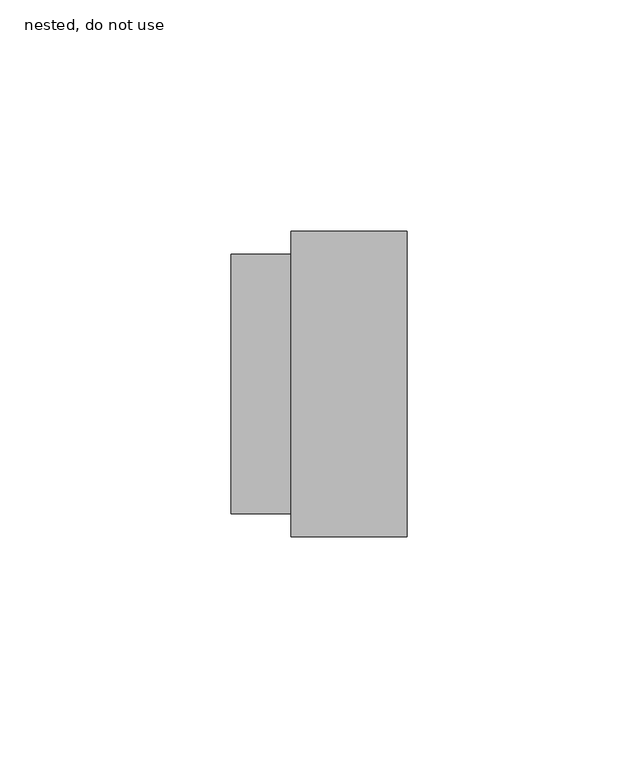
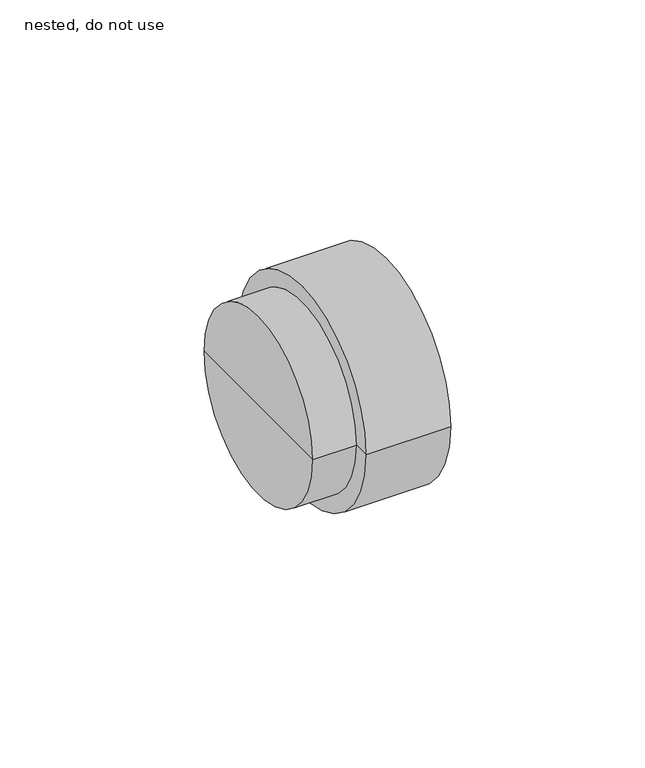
"""IFC4 building model written with IfcOpenShell, lengths in millimetres: pipe fitting geometry, ZZZ_do no use_PIF_HDPE trap connecting socket -SH_Akatherm : nested, do not use."""

import ifcopenshell
import ifcopenshell.guid

model = None  # the IFC model being written
_history = None  # IfcOwnerHistory: only IFC2X3 demands one
_inside = {}  # id of a spatial element -> (the spatial element, [elements in it])
_under = {}  # id of a project, library or spatial element -> (it, [spatial elements below it])
_declared = {}  # id of a project -> (the project, [libraries it declares])
_typed = {}  # id of a type object -> (the type object, [elements of that type])
_made_of = {}  # id of a material, layer set ... -> (it, [elements and type objects made of it])


def new_model(schema):
    """Start an empty IFC model of exactly this schema.

    Asked for "IFC4X3", IfcOpenShell would pick the latest addendum, in which some entities
    have other attributes; the version numbers below select the first issue.
    IFC2X3 requires an IfcOwnerHistory on every rooted entity: one is made here for all.
    """
    global model, _history
    if schema == "IFC4X3":
        model = ifcopenshell.file(schema_version=(4, 3, 0, 0))
    else:
        model = ifcopenshell.file(schema=schema)
    _inside.clear()
    _under.clear()
    _declared.clear()
    _typed.clear()
    _made_of.clear()
    _history = None
    if model.schema == "IFC2X3":
        org = make("IfcOrganization", Name="unknown")
        user = make(
            "IfcPersonAndOrganization",
            ThePerson=make("IfcPerson", FamilyName="unknown"),
            TheOrganization=org,
        )
        app = make(
            "IfcApplication",
            ApplicationDeveloper=org,
            Version="unknown",
            ApplicationFullName="unknown",
            ApplicationIdentifier="unknown",
        )
        _history = make(
            "IfcOwnerHistory",
            OwningUser=user,
            OwningApplication=app,
            ChangeAction="ADDED",
            CreationDate=0,
        )
    return model


def make(cls, **values):
    """One entity of the class cls with the attributes given. An attribute that is None is left unset."""
    return model.create_entity(
        cls, **{name: value for name, value in values.items() if value is not None}
    )


def rooted(cls, **values):
    """An entity with a GlobalId (a new one), such as an element, a storey or a relation."""
    return make(cls, GlobalId=ifcopenshell.guid.new(), OwnerHistory=_history, **values)


def si_unit(unit_type, name, prefix=None):
    """IfcSIUnit, for example si_unit("LENGTHUNIT", "METRE", prefix="MILLI")."""
    return make("IfcSIUnit", UnitType=unit_type, Prefix=prefix, Name=name)


def assignment(units):
    """IfcUnitAssignment: the units of a project."""
    return None if units is None else make("IfcUnitAssignment", Units=units)


def point(xyz):
    """IfcCartesianPoint."""
    return None if xyz is None else make("IfcCartesianPoint", Coordinates=xyz)


def direction(xyz):
    """IfcDirection."""
    return None if xyz is None else make("IfcDirection", DirectionRatios=xyz)


def frame(location, z_axis=None, x_axis=None):
    """IfcAxis2Placement3D, a coordinate frame: its origin and axes. An axis left out is left unset."""
    return make(
        "IfcAxis2Placement3D",
        Location=point(location),
        Axis=direction(z_axis),
        RefDirection=direction(x_axis),
    )


def origin():
    """The frame at (0, 0, 0) with its axes left unset."""
    return frame((0.0, 0.0, 0.0))


def place(relative_to, where):
    """IfcLocalPlacement: puts the frame where relative to a parent placement (None: the world)."""
    return make(
        "IfcLocalPlacement", PlacementRelTo=relative_to, RelativePlacement=where
    )


def context(
    kind, dimensions, precision=None, world=None, true_north=None, identifier=None
):
    """IfcGeometricRepresentationContext, for example the 3D "Model" context."""
    return make(
        "IfcGeometricRepresentationContext",
        ContextIdentifier=identifier,
        ContextType=kind,
        CoordinateSpaceDimension=dimensions,
        Precision=precision,
        WorldCoordinateSystem=world,
        TrueNorth=true_north,
    )


def project(units=None, contexts=None):
    """IfcProject with its units and contexts."""
    return rooted(
        "IfcProject",
        Name="project",
        RepresentationContexts=contexts,
        UnitsInContext=assignment(units),
    )


def spatial(cls, under=None, at=None, **own):
    """A site, building, storey or space (cls), placed at a placement, below another one or the project."""
    s = rooted(cls, ObjectPlacement=at, **own)
    if under is not None:
        _under.setdefault(under.id(), (under, []))[1].append(s)
    return s


def circle_curve(where, radius):
    """IfcCircle in the frame where."""
    return make("IfcCircle", Position=where, Radius=radius)


def shape(context_of_items, identifier, shape_type, items):
    """IfcShapeRepresentation: the items that make up one representation, for example the "Body"."""
    return make(
        "IfcShapeRepresentation",
        ContextOfItems=context_of_items,
        RepresentationIdentifier=identifier,
        RepresentationType=shape_type,
        Items=items,
    )


def source(mapping_origin, context_of_items, identifier, shape_type, items):
    """IfcRepresentationMap: a shape defined once, which mapped items show again and again."""
    return make(
        "IfcRepresentationMap",
        MappingOrigin=mapping_origin,
        MappedRepresentation=shape(context_of_items, identifier, shape_type, items),
    )


def transform(
    local_origin,
    x_axis=None,
    y_axis=None,
    z_axis=None,
    scale=None,
    scale2=None,
    scale3=None,
    uniform=True,
):
    """IfcCartesianTransformationOperator3D, or its non-uniform kind. x_axis, y_axis, z_axis: its Axis1, 2, 3."""
    if uniform:
        return make(
            "IfcCartesianTransformationOperator3D",
            Axis1=direction(x_axis),
            Axis2=direction(y_axis),
            LocalOrigin=point(local_origin),
            Scale=scale,
            Axis3=direction(z_axis),
        )
    return make(
        "IfcCartesianTransformationOperator3DnonUniform",
        Axis1=direction(x_axis),
        Axis2=direction(y_axis),
        LocalOrigin=point(local_origin),
        Scale=scale,
        Axis3=direction(z_axis),
        Scale2=scale2,
        Scale3=scale3,
    )


def mapped(mapping_source, mapping_target):
    """IfcMappedItem: shows the shape of a source again, moved by a transform."""
    return make(
        "IfcMappedItem", MappingSource=mapping_source, MappingTarget=mapping_target
    )


def made_of(thing, what):
    """Note that an element or type object is made of a material, layer set ...; save() writes the relation."""
    if what is not None:
        _made_of.setdefault(what.id(), (what, []))[1].append(thing)
    return thing


def element(
    cls,
    number,
    at=None,
    inside=None,
    cuts=None,
    type_object=None,
    material=None,
    context=None,
    identifier="Body",
    shape_type=None,
    held_by="IfcProductDefinitionShape",
    body=None,
    shapes=None,
    **own,
):
    """One element of the class cls, such as IfcWall. Its Tag is "e" and its number.

    at: its placement. inside: the storey or other place that contains it. cuts: it is an
    opening in that element (IfcRelVoidsElement). A single representation is given by context,
    identifier, shape_type and body (its items); several are given by shapes. held_by: the class
    of the entity that holds the representations. save() writes the other relations.
    """
    e = rooted(cls, Tag="e%d" % number, ObjectPlacement=at, **own)
    if body is not None:
        shapes = [shape(context, identifier, shape_type, body)]
    if shapes is not None:
        e.Representation = make(held_by, Representations=shapes)
    if inside is not None:
        _inside.setdefault(inside.id(), (inside, []))[1].append(e)
    if cuts is not None:
        rooted(
            "IfcRelVoidsElement", RelatingBuildingElement=cuts, RelatedOpeningElement=e
        )
    if type_object is not None:
        _typed.setdefault(type_object.id(), (type_object, []))[1].append(e)
    return made_of(e, material)


def aggregate(whole, parts):
    """IfcRelAggregates: a whole, such as a stair, and the parts it consists of."""
    return rooted("IfcRelAggregates", RelatingObject=whole, RelatedObjects=parts)


def save(model, path):
    """Write the relations noted so far, then the file.

    IfcRelAggregates (storeys below a building ...), IfcRelContainedInSpatialStructure (elements
    in a storey), IfcRelDefinesByType, IfcRelAssociatesMaterial and IfcRelDeclares: one each for
    every whole, place, type object, material and project.
    """
    for whole, parts in _under.values():
        aggregate(whole, parts)
    for where, things in _inside.values():
        rooted(
            "IfcRelContainedInSpatialStructure",
            RelatedElements=things,
            RelatingStructure=where,
        )
    for kind, things in _typed.values():
        rooted("IfcRelDefinesByType", RelatedObjects=things, RelatingType=kind)
    for what, things in _made_of.values():
        rooted("IfcRelAssociatesMaterial", RelatedObjects=things, RelatingMaterial=what)
    for by, libraries in _declared.values():
        rooted("IfcRelDeclares", RelatingContext=by, RelatedDefinitions=libraries)
    model.write(path)


def plane_surface(at):
    """IfcPlane: the flat surface through the origin of the frame at, square to its z axis."""
    return make("IfcPlane", Position=at)


def cylinder_surface(at, radius):
    """IfcCylindricalSurface: all points at the distance radius from the z axis of the frame at."""
    return make("IfcCylindricalSurface", Position=at, Radius=radius)


def advanced_brep(points, edges, surfaces, faces):
    """IfcAdvancedBrep: a solid bounded by faces that lie on surfaces and meet in shared edges.

    An edge is (start, end): straight between two places in points (the first is 0);
    or (start, end, curve); or (start, end, curve, False) where it runs against its curve.
    A face is (place in surfaces, loops), or (place, loops, False) where it looks against
    its surface's normal. A loop lists edges by number (the first is 1), with a minus sign
    where the edge is run from its end to its start. The first loop is the outer one.
    """
    corners = [point(p) for p in points]
    vertices = [make("IfcVertexPoint", VertexGeometry=c) for c in corners]
    made = []
    for start, end, *more in edges:
        made.append(
            make(
                "IfcEdgeCurve",
                EdgeStart=vertices[start],
                EdgeEnd=vertices[end],
                EdgeGeometry=more[0] if more else make("IfcPolyline", Points=[corners[start], corners[end]]),
                SameSense=more[1] if len(more) > 1 else True,
            )
        )
    hull = []
    for where, loops, *sense in faces:
        bounds = []
        for j, loop in enumerate(loops):
            ring = [make("IfcOrientedEdge", EdgeElement=made[abs(k) - 1], Orientation=k > 0) for k in loop]
            bounds.append(
                make(
                    "IfcFaceOuterBound" if j == 0 else "IfcFaceBound",
                    Bound=make("IfcEdgeLoop", EdgeList=ring),
                    Orientation=True,
                )
            )
        hull.append(make("IfcAdvancedFace", Bounds=bounds, FaceSurface=surfaces[where], SameSense=sense[0] if sense else True))
    return make("IfcAdvancedBrep", Outer=make("IfcClosedShell", CfsFaces=hull))


def nested_do_not_use_9fcaccac(model_context):
    return source(origin(), model_context, "Body", "AdvancedBrep", [
        advanced_brep(
        [(19.0, -33.0, 0.0), (19.0, 33.0, 0.0), (19.0, 0.0, 0.0), (-6.0, -33.0, 0.0), (-6.0, 33.0, 0.0), (-6.0, -28.0, 0.0), (-6.0, 28.0, 0.0), (-19.0, -28.0, 0.0), (-19.0, 28.0, 0.0), (-19.0, 0.0, 0.0)],
        [
            (0, 1, circle_curve(frame((19.0, 0.0, 0.0), z_axis=(1.0, 0.0, 0.0), x_axis=(0.0, 1.0, 0.0)), 33.0)),
            (1, 2),
            (2, 0),
            (1, 0, circle_curve(frame((19.0, 0.0, 0.0), z_axis=(1.0, 0.0, 0.0), x_axis=(0.0, 1.0, 0.0)), 33.0)),
            (3, 4, circle_curve(frame((-6.0, 0.0, 0.0), z_axis=(1.0, 0.0, 0.0), x_axis=(0.0, 1.0, 0.0)), 33.0)),
            (4, 1),
            (0, 3),
            (4, 3, circle_curve(frame((-6.0, 0.0, 0.0), z_axis=(1.0, 0.0, 0.0), x_axis=(0.0, 1.0, 0.0)), 33.0)),
            (5, 6, circle_curve(frame((-6.0, 0.0, 0.0), z_axis=(1.0, 0.0, 0.0), x_axis=(0.0, 1.0, 0.0)), 28.0)),
            (6, 4),
            (3, 5),
            (6, 5, circle_curve(frame((-6.0, 0.0, 0.0), z_axis=(1.0, 0.0, 0.0), x_axis=(0.0, 1.0, 0.0)), 28.0)),
            (7, 8, circle_curve(frame((-19.0, 0.0, 0.0), z_axis=(1.0, 0.0, 0.0), x_axis=(0.0, 1.0, 0.0)), 28.0)),
            (8, 6),
            (5, 7),
            (8, 7, circle_curve(frame((-19.0, 0.0, 0.0), z_axis=(1.0, 0.0, 0.0), x_axis=(0.0, 1.0, 0.0)), 28.0)),
            (9, 8),
            (7, 9),
        ],
        [
            plane_surface(frame((19.0, 0.0, 0.0), z_axis=(1.0, 0.0, 0.0), x_axis=(0.0, 1.0, 0.0))),
            cylinder_surface(frame((-29.565785, 0.0, 0.0), z_axis=(-1.0, 0.0, 0.0), x_axis=(0.0, 1.0, 0.0)), 33.0),
            plane_surface(frame((-6.0, 0.0, 0.0), z_axis=(-1.0, 0.0, 0.0), x_axis=(0.0, 1.0, 0.0))),
            cylinder_surface(frame((-29.565785, 0.0, 0.0), z_axis=(-1.0, 0.0, 0.0), x_axis=(0.0, 1.0, 0.0)), 28.0),
            plane_surface(frame((-19.0, 0.0, 0.0), z_axis=(-1.0, 0.0, 0.0), x_axis=(0.0, 1.0, 0.0))),
        ],
        [
            (0, [[1, 2, 3]]),
            (0, [[4, -3, -2]]),
            (1, [[5, 6, -1, 7]]),
            (1, [[8, -7, -4, -6]]),
            (2, [[9, 10, -5, 11]]),
            (2, [[12, -11, -8, -10]]),
            (3, [[13, 14, -9, 15]]),
            (3, [[16, -15, -12, -14]]),
            (4, [[17, -13, 18]]),
            (4, [[-18, -16, -17]]),
        ],
    ),
    ])


if __name__ == "__main__":
    model = new_model("IFC4")
    model_context = context("Model", 3, world=origin())
    ifc_project = project(units=[si_unit("LENGTHUNIT", "METRE", prefix="MILLI")], contexts=[model_context])
    site = spatial("IfcSite", under=ifc_project)
    building = spatial("IfcBuilding", under=site)
    placement = place(None, origin())
    nested_do_not_use_shape = nested_do_not_use_9fcaccac(model_context)
    element("IfcPipeFitting", 1, ObjectType="ZZZ_do no use_PIF_HDPE trap connecting socket -SH_Akatherm : nested, do not use", at=placement, inside=building, context=model_context, shape_type="MappedRepresentation", body=[
        mapped(nested_do_not_use_shape, transform((0.0, 0.0, 0.0), x_axis=(1.0, 0.0, 0.0), y_axis=(0.0, 1.0, 0.0), z_axis=(0.0, 0.0, 1.0))),
    ])
    save(model, "model.ifc")
